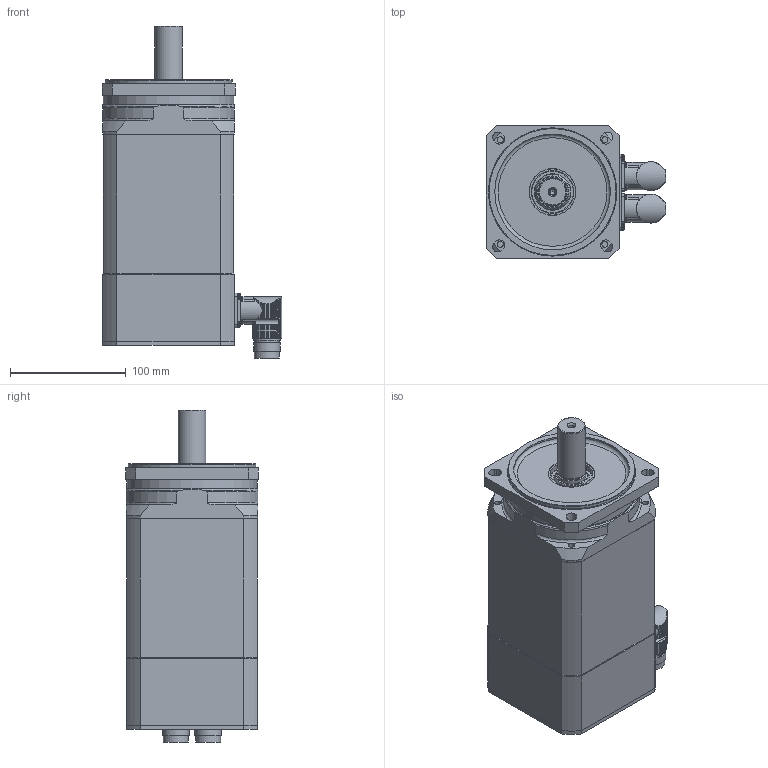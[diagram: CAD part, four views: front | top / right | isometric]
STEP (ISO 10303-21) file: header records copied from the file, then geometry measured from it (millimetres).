
FILE_DESCRIPTION(/* description */ (''),/* implementation_level */ '2;1');
FILE_NAME(/* name */ 'MR 7446-Ux-Nxxx-G01-A0D-M0',/* time_stamp */ '2007-07-13T09:50:00+01:00',/* author */ (''),/* organization */ ('ESR Pollmeier GmbH'),/* preprocessor_version */ 'ST-DEVELOPER v8',/* originating_system */ 'UNIGRAPHICS SOLUTIONS - UNIGRAPHICS 18.0',/* authorisation */ '');
FILE_SCHEMA (('AUTOMOTIVE_DESIGN { 1 2 10303 214 0 1 1 1 }'));
Length unit declared in the file: millimetre
Products named in the file (14): Gehaeuse_SY4_120_0; Rotor_SY4_0; 114099_0; 064225_0; 114098_0; iso2009-m4x10_A; DIN3760_org_A25x40x7_0; iso1580-m2.5x6_A; iso1580-m3x10_A; din128-3_A; 014250_0; 014257_0; 064205Z_0; MR7446-Ux-Nxxx-G01-A0D-M0_0
Assembly tree (26 placements, depth 2):
  MR7446-Ux-Nxxx-G01-A0D-M0_0
    064205Z_0
    014257_0
    014250_0
    din128-3_A
    iso1580-m3x10_A  x4
    iso1580-m2.5x6_A  x8
    DIN3760_org_A25x40x7_0
    iso2009-m4x10_A  x4
    114098_0
    064225_0
    114099_0
    Rotor_SY4_0
    Gehaeuse_SY4_120_0
Bounding box: 155.49 x 115 x 287.15 mm (x, y, z)
Volume: 1033118.3 mm3; surface area: 334498.5 mm2
Topology: 26 solids, 26 shells, 937 faces, 2456 edges, 1607 vertices
Faces by surface type: cylinder 515, plane 273, cone 84, torus 45, sphere 20
Full cylindrical faces by diameter (mm): 1 x16, 1.948 x8, 2 x4, 2.135 x8, 2.387 x4, 2.459 x4, 2.5 x8, 2.7 x8, 3 x4, 3.432 x7, 3.5 x4, 4 x4, 4.351 x1, 4.5 x7, 5.188 x4, 5.5 x1, 6.5 x4, 8 x7, 14 x5, 18 x4, 20 x6, 21 x2, 21.5 x2, 23 x5, 23.52 x1, 24 x1, 25 x2, 25.3 x1, 33 x1, 36.83 x1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
Entity records: 24321 total; most frequent: CARTESIAN_POINT 5631, DIRECTION 3825, ORIENTED_EDGE 3514, EDGE_CURVE 1757, AXIS2_PLACEMENT_3D 1617, VERTEX_POINT 1270, EDGE_LOOP 1144, CIRCLE 809
